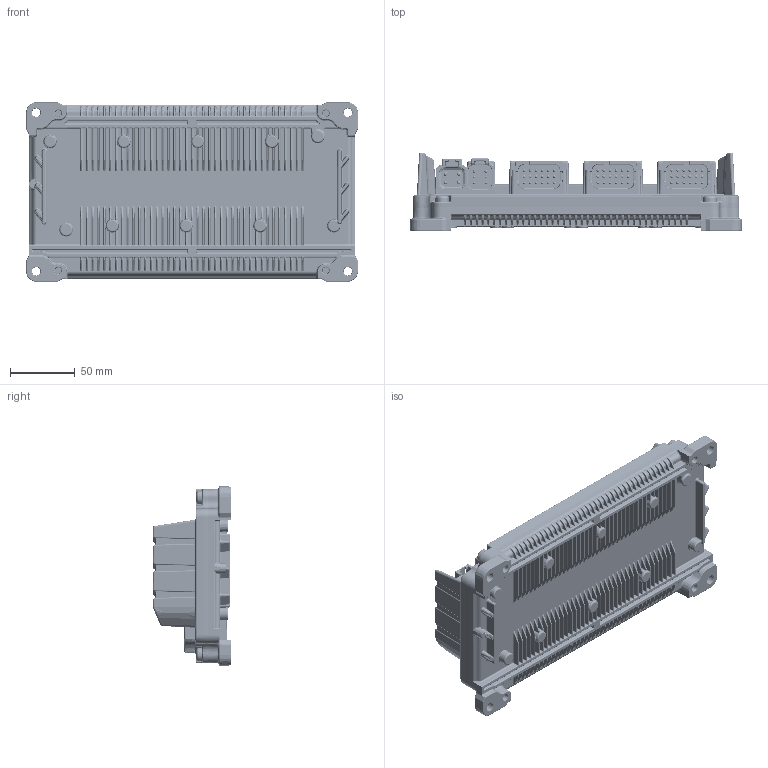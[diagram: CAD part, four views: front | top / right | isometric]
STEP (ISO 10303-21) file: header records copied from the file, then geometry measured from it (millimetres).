
FILE_DESCRIPTION (( 'STEP AP214' ), '1' );
FILE_NAME ('MC4.STEP', '2019-12-06T19:27:10', ( '' ), ( '' ), 'SwSTEP 2.0', 'SolidWorks 2019', '' );
FILE_SCHEMA (( 'AUTOMOTIVE_DESIGN' ));
Length unit declared in the file: millimetre
Products named in the file (1): MC4
Bounding box: 256.23 x 60.43 x 138.51 mm (x, y, z)
Volume: 935475.4 mm3; surface area: 164765.6 mm2
Topology: 1 solids, 1 shells, 8540 faces, 20655 edges, 11554 vertices
Faces by surface type: cylinder 2948, bspline 2210, plane 1765, sphere 665, torus 623, cone 329
Entity records: 393239 total; most frequent: CARTESIAN_POINT 122433, ORIENTED_EDGE 39864, DIRECTION 34748, EDGE_CURVE 19932, AXIS2_PLACEMENT_3D 13535, VERTEX_POINT 11554, EDGE_LOOP 8730, ADVANCED_FACE 8540
